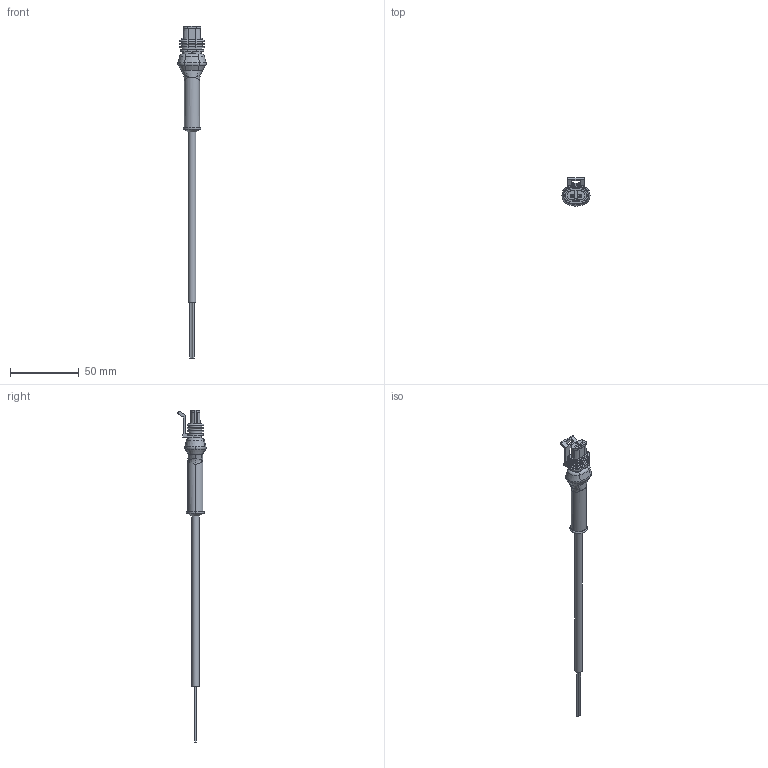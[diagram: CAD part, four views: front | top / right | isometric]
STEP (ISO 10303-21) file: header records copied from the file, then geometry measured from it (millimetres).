
FILE_DESCRIPTION(/* description */ (''),/* implementation_level */ '2;1');
FILE_NAME(/* name */ 'L0BC00.B01.stp',/* time_stamp */ '2020-02-11T15:40:23+01:00',/* author */ (''),/* organization */ (''),/* preprocessor_version */ 'ST-DEVELOPER v16',/* originating_system */ 'SIEMENS PLM Software NX 11.0',/* authorisation */ '');
FILE_SCHEMA (('AP203_CONFIGURATION_CONTROLLED_3D_DESIGN_OF_MECHANICAL_PARTS_AND_ASSEMBLIES_MIM_LF { 1 0 10303 403 2 1 2}'));
Length unit declared in the file: millimetre
Products named in the file (1): hi2n3640BBD0ix7h
Bounding box: 20.49 x 20.45 x 241.15 mm (x, y, z)
Volume: 12263.2 mm3; surface area: 7155.4 mm2
Topology: 1 solids, 1 shells, 246 faces, 657 edges, 424 vertices
Faces by surface type: plane 153, cylinder 34, bspline 22, cone 14, torus 12, revolution 11
Full cylindrical faces by diameter (mm): 1.3 x2, 5.5 x1
Entity records: 8831 total; most frequent: CARTESIAN_POINT 2601, ORIENTED_EDGE 1306, DIRECTION 1238, EDGE_CURVE 653, LINE 437, VECTOR 437, VERTEX_POINT 423, AXIS2_PLACEMENT_3D 395
